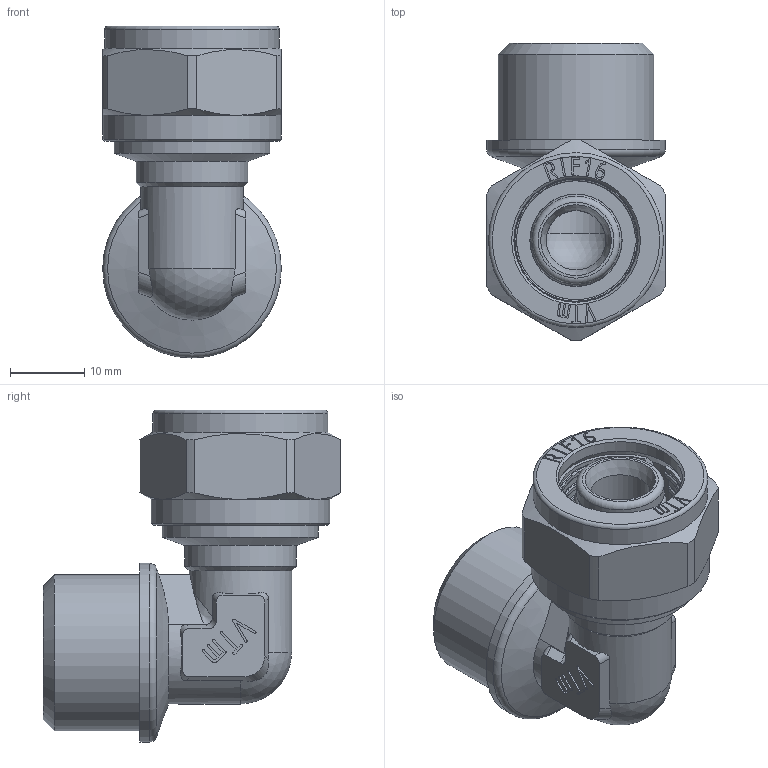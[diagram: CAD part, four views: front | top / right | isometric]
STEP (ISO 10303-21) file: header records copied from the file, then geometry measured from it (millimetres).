
FILE_DESCRIPTION(('STEP AP203'), '1');
FILE_NAME('VTm.353.N.001604', '', ('UNSPECIFIED'), ('UNSPECIFIED'), 'C3D Converter', 'C3D Toolkit', '');
FILE_SCHEMA(('CONFIG_CONTROL_DESIGN'));
Length unit declared in the file: millimetre
Products named in the file (1): ВР.302635.107.000 СБ
Bounding box: 24 x 40 x 44.61 mm (x, y, z)
Volume: 11119.6 mm3; surface area: 9316.8 mm2
Topology: 2 solids, 2 shells, 444 faces, 1210 edges, 796 vertices
Faces by surface type: extrusion 189, plane 153, cylinder 47, torus 28, cone 23, sphere 2, bspline 2
Full cylindrical faces by diameter (mm): 8 x1, 10 x1, 11.8 x4, 12.4 x1, 13.8 x1, 14.5 x1, 15 x1, 16.2 x1, 16.7 x1, 18.632 x1, 20.955 x2, 23.5 x1, 24 x2
Entity records: 15948 total; most frequent: CARTESIAN_POINT 5797, ORIENTED_EDGE 2328, DIRECTION 1471, EDGE_CURVE 1164, VERTEX_POINT 796, VECTOR 733, B_SPLINE_CURVE_WITH_KNOTS 655, LINE 544
